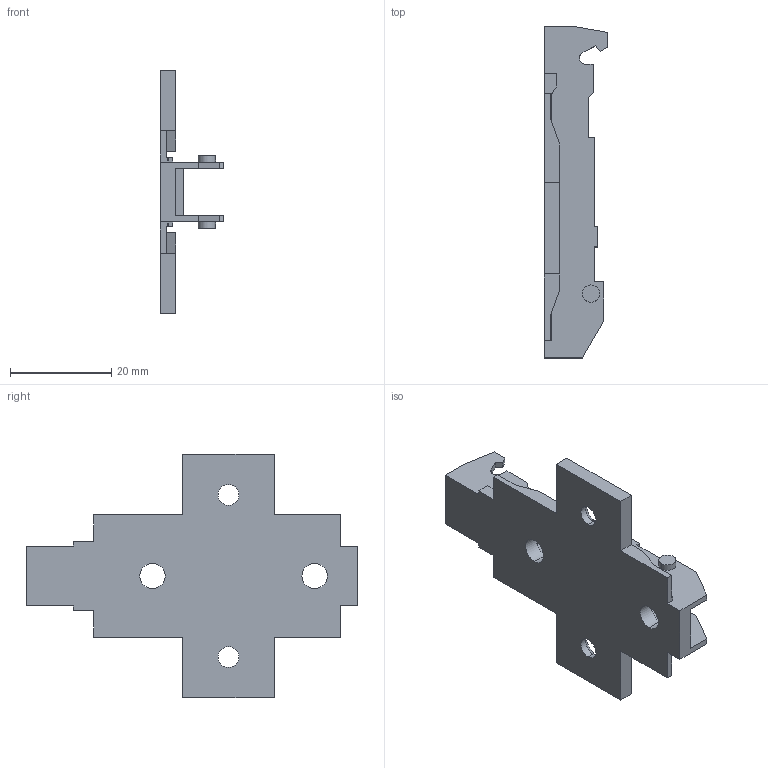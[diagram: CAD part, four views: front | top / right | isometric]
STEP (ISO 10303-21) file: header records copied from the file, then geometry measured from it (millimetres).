
FILE_DESCRIPTION (( 'STEP AP214' ), '1' );
FILE_NAME ('1D_Kreuzmontageplatte 37_32_Spax_2.step', '2010-11-18T10:18:38', ( 'grass' ), ( '' ), 'SwSTEP 2.0', 'SolidWorks 2010', '' );
FILE_SCHEMA (( 'AUTOMOTIVE_DESIGN' ));
Length unit declared in the file: millimetre
Products named in the file (1): 1D_Kreuzmontageplatte 37_32_Spax_2
Bounding box: 12.5 x 65.5 x 48 mm (x, y, z)
Volume: 5961.8 mm3; surface area: 6421.4 mm2
Topology: 1 solids, 1 shells, 106 faces, 302 edges, 200 vertices
Faces by surface type: plane 84, cylinder 18, cone 4
Entity records: 3464 total; most frequent: CARTESIAN_POINT 609, ORIENTED_EDGE 604, DIRECTION 556, EDGE_CURVE 302, LINE 262, VECTOR 262, VERTEX_POINT 200, AXIS2_PLACEMENT_3D 147
